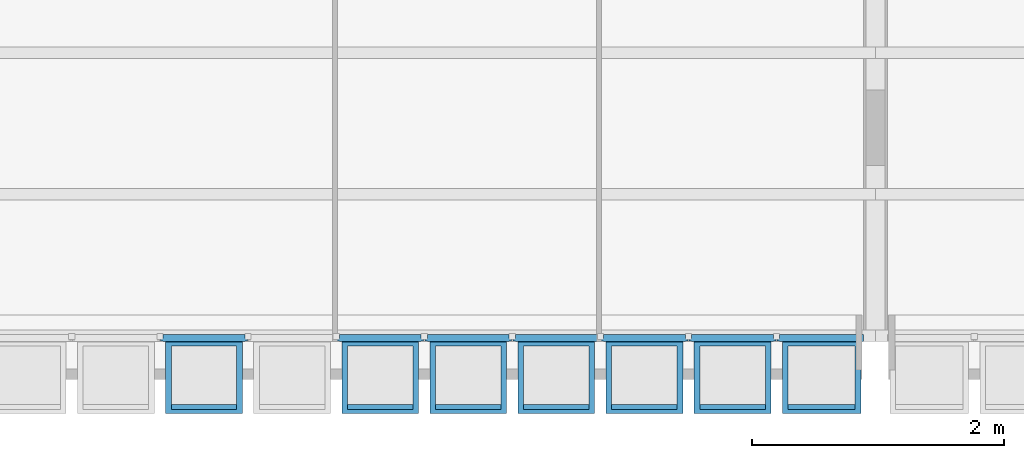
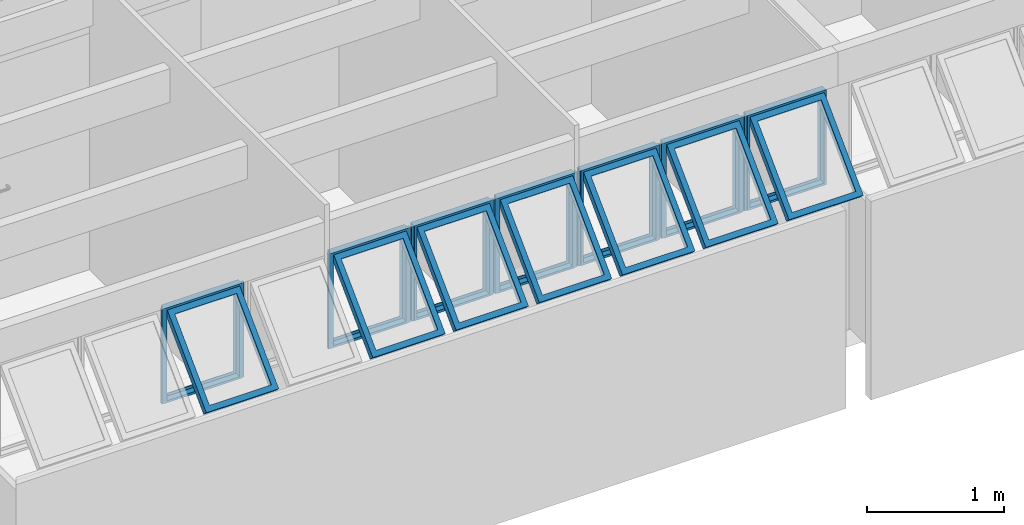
# One storey, part 26 of 37: 7 building element parts, 8 elements without a shape of their own.
"""IFC2X3 building model written with IfcOpenShell, lengths in millimetres."""

from ifc_helpers import new_model, entity, si_unit, converted_unit, derived_unit, money_unit, direction, frame, origin_with_axes, place, context, subcontext, project, spatial, faceted_brep, source, transform, mapped, material, type_object, element, aggregate, save


model = new_model("IFC2X3")

# Units and contexts
model_context = context("Model", 3, precision=0.01, world=origin_with_axes(), true_north=direction((0.0, 1.0)))
body_context = subcontext(model_context, "Body", "Model", "MODEL_VIEW")
ifc_project = project(units=[si_unit("LENGTHUNIT", "METRE", prefix="MILLI"), si_unit("AREAUNIT", "SQUARE_METRE"), si_unit("VOLUMEUNIT", "CUBIC_METRE"), converted_unit("PLANEANGLEUNIT", "DEGREE", entity("IfcPlaneAngleMeasure", 0.0174532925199), si_unit("PLANEANGLEUNIT", "RADIAN"), dimensions=[0, 0, 0, 0, 0, 0, 0]), money_unit("USD"), converted_unit("TIMEUNIT", "Year", entity("IfcTimeMeasure", 31556926.0), si_unit("TIMEUNIT", "SECOND"), dimensions=[0, 0, 1, 0, 0, 0, 0]), si_unit("MASSUNIT", "GRAM", prefix="KILO"), si_unit("THERMODYNAMICTEMPERATUREUNIT", "DEGREE_CELSIUS"), si_unit("LUMINOUSINTENSITYUNIT", "LUMEN"), si_unit("ENERGYUNIT", "JOULE", prefix="MEGA"), derived_unit("THERMALCONDUCTANCEUNIT", [(si_unit("POWERUNIT", "WATT"), 1), (si_unit("LENGTHUNIT", "METRE"), -1), (si_unit("THERMODYNAMICTEMPERATUREUNIT", "KELVIN"), -1)]), derived_unit("SPECIFICHEATCAPACITYUNIT", [(si_unit("ENERGYUNIT", "JOULE"), 1), (si_unit("MASSUNIT", "GRAM", prefix="KILO"), -1), (si_unit("THERMODYNAMICTEMPERATUREUNIT", "KELVIN"), -1)]), derived_unit("MASSDENSITYUNIT", [(si_unit("MASSUNIT", "GRAM", prefix="KILO"), 1), (si_unit("VOLUMEUNIT", "CUBIC_METRE"), -1)])], contexts=[model_context])

# Site, building, storey
site_placement = place(None, origin_with_axes())
site = spatial("IfcSite", under=ifc_project, at=site_placement, Name="Local", CompositionType="ELEMENT")
building_placement = place(site_placement, origin_with_axes())
building = spatial("IfcBuilding", under=site, at=building_placement, Name="Construção", CompositionType="ELEMENT")
storey_placement = place(building_placement, origin_with_axes())
storey = spatial("IfcBuildingStorey", under=building, at=storey_placement, Name="Primeiro Pavimento", CompositionType="ELEMENT", Elevation=0.0)

# Window, plates, building element parts
window_style = type_object("IfcWindowStyle", Name="Tipo de Parede Cortina", ConstructionType="NOTDEFINED", OperationType="NOTDEFINED", ParameterTakesPrecedence=False, Sizeable=False)
window_placement = place(storey_placement, frame((294.999984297, 315.020977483, 1355.02054151), z_axis=(0.0, 0.0, 1.0), x_axis=(1.0, 0.0, 0.0)))
window = element("IfcWindow", 1, at=window_placement, inside=storey, type_object=window_style, Name="APTO1-JANELA-001")
plate_type_1 = type_object("IfcPlateType", Name="Painel Principal 690 x 845 x 20", PredefinedType="CURTAIN_PANEL")
plate_1_placement = place(window_placement, frame((4555.0000157, 0.0, 422.499945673), z_axis=(0.0, 0.0, 1.0), x_axis=(-1.0, 0.0, 0.0)))
plate_1 = element("IfcPlate", 2, at=plate_1_placement, type_object=plate_type_1, Name="APTO1-Painel-Prin-029")
ifc_material = material(Name="Alumínio")
shared_shape_1 = source(origin_with_axes(), body_context, "Body", "Brep", [
    faceted_brep([(25.0000036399, 0.0, -40.0), (674.999997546, 0.0, -40.0), (674.999997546, 0.0, -35.0), (25.0000036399, 0.0, -35.0), (70.0000036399, 45.0, -40.0), (629.999997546, 45.0, -40.0), (629.999997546, 45.0, -35.0), (70.0000036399, 45.0, -35.0)], [[[0, 1, 2, 3]], [[0, 4, 5, 1]], [[1, 5, 6, 2]], [[3, 2, 6, 7]], [[4, 0, 3, 7]], [[5, 4, 7, 6]]]),
    faceted_brep([(674.999997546, 0.0, -40.0), (674.999997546, 844.999891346, -40.0), (674.999997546, 844.999891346, -35.0), (674.999997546, 0.0, -35.0), (629.999997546, 45.0, -40.0), (629.999997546, 799.999891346, -40.0), (629.999997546, 799.999891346, -35.0), (629.999997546, 45.0, -35.0)], [[[0, 1, 2, 3]], [[0, 4, 5, 1]], [[1, 5, 6, 2]], [[3, 2, 6, 7]], [[4, 0, 3, 7]], [[5, 4, 7, 6]]]),
    faceted_brep([(25.0000036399, 844.999891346, -40.0), (70.0000036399, 799.999891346, -40.0), (70.0000036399, 799.999891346, -35.0), (25.0000036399, 844.999891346, -35.0), (674.999997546, 844.999891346, -40.0), (629.999997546, 799.999891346, -40.0), (629.999997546, 799.999891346, -35.0), (674.999997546, 844.999891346, -35.0)], [[[0, 1, 2, 3]], [[0, 4, 5, 1]], [[1, 5, 6, 2]], [[3, 2, 6, 7]], [[4, 0, 3, 7]], [[5, 4, 7, 6]]]),
    faceted_brep([(25.0000036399, 0.0, -40.0), (70.0000036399, 45.0, -40.0), (70.0000036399, 45.0, -35.0), (25.0000036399, 0.0, -35.0), (25.0000036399, 844.999891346, -40.0), (70.0000036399, 799.999891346, -40.0), (70.0000036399, 799.999891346, -35.0), (25.0000036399, 844.999891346, -35.0)], [[[0, 1, 2, 3]], [[0, 4, 5, 1]], [[1, 5, 6, 2]], [[3, 2, 6, 7]], [[4, 0, 3, 7]], [[5, 4, 7, 6]]]),
    faceted_brep([(25.0000036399, 0.0, -35.0), (674.999997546, 0.0, -35.0), (674.999997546, 0.0, 15.0), (25.0000036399, 0.0, 15.0), (45.0000036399, 20.0, -35.0), (654.999997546, 20.0, -35.0), (654.999997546, 20.0, 15.0), (45.0000036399, 20.0, 15.0)], [[[0, 1, 2, 3]], [[0, 4, 5, 1]], [[1, 5, 6, 2]], [[3, 2, 6, 7]], [[4, 0, 3, 7]], [[5, 4, 7, 6]]]),
    faceted_brep([(674.999997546, 0.0, -35.0), (674.999997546, 844.999891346, -35.0), (674.999997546, 844.999891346, 15.0), (674.999997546, 0.0, 15.0), (654.999997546, 20.0, -35.0), (654.999997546, 824.999891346, -35.0), (654.999997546, 824.999891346, 15.0), (654.999997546, 20.0, 15.0)], [[[0, 1, 2, 3]], [[0, 4, 5, 1]], [[1, 5, 6, 2]], [[3, 2, 6, 7]], [[4, 0, 3, 7]], [[5, 4, 7, 6]]]),
    faceted_brep([(25.0000036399, 844.999891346, -35.0), (45.0000036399, 824.999891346, -35.0), (45.0000036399, 824.999891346, 15.0), (25.0000036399, 844.999891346, 15.0), (674.999997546, 844.999891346, -35.0), (654.999997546, 824.999891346, -35.0), (654.999997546, 824.999891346, 15.0), (674.999997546, 844.999891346, 15.0)], [[[0, 1, 2, 3]], [[0, 4, 5, 1]], [[1, 5, 6, 2]], [[3, 2, 6, 7]], [[4, 0, 3, 7]], [[5, 4, 7, 6]]]),
    faceted_brep([(25.0000036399, 0.0, -35.0), (45.0000036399, 20.0, -35.0), (45.0000036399, 20.0, 15.0), (25.0000036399, 0.0, 15.0), (25.0000036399, 844.999891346, -35.0), (45.0000036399, 824.999891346, -35.0), (45.0000036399, 824.999891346, 15.0), (25.0000036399, 844.999891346, 15.0)], [[[0, 1, 2, 3]], [[0, 4, 5, 1]], [[1, 5, 6, 2]], [[3, 2, 6, 7]], [[4, 0, 3, 7]], [[5, 4, 7, 6]]]),
    faceted_brep([(694.999995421, 0.0, -10.0), (694.999995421, 844.999891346, -10.0), (694.999995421, 844.999891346, 10.0), (694.999995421, 0.0, 10.0), (674.999997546, 0.0, -10.0), (674.999997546, 844.999891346, -10.0), (674.999997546, 844.999891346, 10.0), (674.999997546, 0.0, 10.0)], [[[0, 1, 2, 3]], [[0, 4, 5, 1]], [[1, 5, 6, 2]], [[3, 2, 6, 7]], [[4, 0, 3, 7]], [[5, 4, 7, 6]]]),
    faceted_brep([(5.00000576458, 844.999891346, -10.0), (5.00000576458, 0.0, -10.0), (5.00000576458, 0.0, 10.0), (5.00000576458, 844.999891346, 10.0), (25.0000036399, 844.999891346, -10.0), (25.0000036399, 0.0, -10.0), (25.0000036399, 0.0, 10.0), (25.0000036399, 844.999891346, 10.0)], [[[0, 1, 2, 3]], [[0, 4, 5, 1]], [[1, 5, 6, 2]], [[3, 2, 6, 7]], [[4, 0, 3, 7]], [[5, 4, 7, 6]]]),
    faceted_brep([(90.0000036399, 252.243475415, 517.045737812), (90.0000036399, 757.824747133, 11.4644660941), (90.0000036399, 796.715620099, 50.3553390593), (90.0000036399, 291.13434838, 555.936610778), (45.0000036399, 220.423670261, 548.865542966), (45.0000036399, 789.644552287, -20.3553390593), (45.0000036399, 828.535425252, 18.5355339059), (45.0000036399, 259.314543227, 587.756415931)], [[[0, 1, 2, 3]], [[0, 4, 5, 1]], [[1, 5, 6, 2]], [[3, 2, 6, 7]], [[4, 0, 3, 7]], [[5, 4, 7, 6]]]),
    faceted_brep([(654.999997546, 220.423670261, 548.865542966), (654.999997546, 789.644552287, -20.3553390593), (654.999997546, 828.535425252, 18.5355339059), (654.999997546, 259.314543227, 587.756415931), (609.999997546, 252.243475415, 517.045737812), (609.999997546, 757.824747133, 11.4644660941), (609.999997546, 796.715620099, 50.3553390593), (609.999997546, 291.13434838, 555.936610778)], [[[0, 1, 2, 3]], [[0, 4, 5, 1]], [[1, 5, 6, 2]], [[3, 2, 6, 7]], [[4, 0, 3, 7]], [[5, 4, 7, 6]]]),
    faceted_brep([(654.999997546, 220.423670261, 548.865542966), (609.999997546, 252.243475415, 517.045737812), (609.999997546, 291.13434838, 555.936610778), (654.999997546, 259.314543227, 587.756415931), (45.0000036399, 220.423670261, 548.865542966), (90.0000036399, 252.243475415, 517.045737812), (90.0000036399, 291.13434838, 555.936610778), (45.0000036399, 259.314543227, 587.756415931)], [[[0, 1, 2, 3]], [[0, 4, 5, 1]], [[1, 5, 6, 2]], [[3, 2, 6, 7]], [[4, 0, 3, 7]], [[5, 4, 7, 6]]]),
    faceted_brep([(45.0000036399, 789.644552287, -20.3553390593), (90.0000036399, 757.824747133, 11.4644660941), (90.0000036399, 796.715620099, 50.3553390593), (45.0000036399, 828.535425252, 18.5355339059), (654.999997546, 789.644552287, -20.3553390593), (609.999997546, 757.824747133, 11.4644660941), (609.999997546, 796.715620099, 50.3553390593), (654.999997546, 828.535425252, 18.5355339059)], [[[0, 1, 2, 3]], [[0, 4, 5, 1]], [[1, 5, 6, 2]], [[3, 2, 6, 7]], [[4, 0, 3, 7]], [[5, 4, 7, 6]]]),
])
building_element_part_1_placement = place(plate_1_placement, origin_with_axes())
building_element_part_1 = element("IfcBuildingElementPart", 3, at=building_element_part_1_placement, material=ifc_material, Name="Alumínio", context=body_context, shape_type="MappedRepresentation", body=[
    mapped(shared_shape_1, transform((350.0, 0.0, -422.499945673), x_axis=(-1.0, 0.0, 0.0), y_axis=(0.0, 0.0, 1.0), z_axis=(0.0, 1.0, 0.0))),
])
aggregate(plate_1, [building_element_part_1])
plate_2_placement = place(window_placement, frame((5255.0000157, 0.0, 422.499945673), z_axis=(0.0, 0.0, 1.0), x_axis=(-1.0, 0.0, 0.0)))
plate_2 = element("IfcPlate", 4, at=plate_2_placement, type_object=plate_type_1, Name="APTO1-Painel-Prin-020")
building_element_part_2_placement = place(plate_2_placement, origin_with_axes())
building_element_part_2 = element("IfcBuildingElementPart", 5, at=building_element_part_2_placement, material=ifc_material, Name="Alumínio", context=body_context, shape_type="MappedRepresentation", body=[
    mapped(shared_shape_1, transform((350.0, 0.0, -422.499945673), x_axis=(-1.0, 0.0, 0.0), y_axis=(0.0, 0.0, 1.0), z_axis=(0.0, 1.0, 0.0))),
])
aggregate(plate_2, [building_element_part_2])
plate_3_placement = place(window_placement, frame((5955.0000157, 0.0, 422.499945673), z_axis=(0.0, 0.0, 1.0), x_axis=(-1.0, 0.0, 0.0)))
plate_3 = element("IfcPlate", 6, at=plate_3_placement, type_object=plate_type_1, Name="APTO1-Painel-Prin-030")
building_element_part_3_placement = place(plate_3_placement, origin_with_axes())
building_element_part_3 = element("IfcBuildingElementPart", 7, at=building_element_part_3_placement, material=ifc_material, Name="Alumínio", context=body_context, shape_type="MappedRepresentation", body=[
    mapped(shared_shape_1, transform((350.0, 0.0, -422.499945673), x_axis=(-1.0, 0.0, 0.0), y_axis=(0.0, 0.0, 1.0), z_axis=(0.0, 1.0, 0.0))),
])
aggregate(plate_3, [building_element_part_3])
plate_type_2 = type_object("IfcPlateType", Name="Painel Principal 685 x 845 x 20", PredefinedType="CURTAIN_PANEL")
plate_4_placement = place(window_placement, frame((6650.00005288, 0.0, 422.499953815), z_axis=(0.0, 0.0, 1.0), x_axis=(-1.0, 0.0, 0.0)))
plate_4 = element("IfcPlate", 8, at=plate_4_placement, type_object=plate_type_2, Name="APTO1-Painel-Prin-031")
shared_shape_2 = source(origin_with_axes(), body_context, "Body", "Brep", [
    faceted_brep([(25.0000046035, 0.0, -40.0), (690.000079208, 0.0, -40.0), (690.000079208, 0.0, -35.0), (25.0000046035, 0.0, -35.0), (70.0000046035, 45.0, -40.0), (645.000079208, 45.0, -40.0), (645.000079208, 45.0, -35.0), (70.0000046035, 45.0, -35.0)], [[[0, 1, 2, 3]], [[0, 4, 5, 1]], [[1, 5, 6, 2]], [[3, 2, 6, 7]], [[4, 0, 3, 7]], [[5, 4, 7, 6]]]),
    faceted_brep([(690.000079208, 0.0, -40.0), (690.000079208, 844.999923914, -40.0), (690.000079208, 844.999923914, -35.0), (690.000079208, 0.0, -35.0), (645.000079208, 45.0, -40.0), (645.000079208, 799.999923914, -40.0), (645.000079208, 799.999923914, -35.0), (645.000079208, 45.0, -35.0)], [[[0, 1, 2, 3]], [[0, 4, 5, 1]], [[1, 5, 6, 2]], [[3, 2, 6, 7]], [[4, 0, 3, 7]], [[5, 4, 7, 6]]]),
    faceted_brep([(25.0000046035, 844.999923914, -40.0), (70.0000046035, 799.999923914, -40.0), (70.0000046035, 799.999923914, -35.0), (25.0000046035, 844.999923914, -35.0), (690.000079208, 844.999923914, -40.0), (645.000079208, 799.999923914, -40.0), (645.000079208, 799.999923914, -35.0), (690.000079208, 844.999923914, -35.0)], [[[0, 1, 2, 3]], [[0, 4, 5, 1]], [[1, 5, 6, 2]], [[3, 2, 6, 7]], [[4, 0, 3, 7]], [[5, 4, 7, 6]]]),
    faceted_brep([(25.0000046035, 0.0, -40.0), (70.0000046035, 45.0, -40.0), (70.0000046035, 45.0, -35.0), (25.0000046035, 0.0, -35.0), (25.0000046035, 844.999923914, -40.0), (70.0000046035, 799.999923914, -40.0), (70.0000046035, 799.999923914, -35.0), (25.0000046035, 844.999923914, -35.0)], [[[0, 1, 2, 3]], [[0, 4, 5, 1]], [[1, 5, 6, 2]], [[3, 2, 6, 7]], [[4, 0, 3, 7]], [[5, 4, 7, 6]]]),
    faceted_brep([(25.0000046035, 0.0, -35.0), (690.000079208, 0.0, -35.0), (690.000079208, 0.0, 15.0), (25.0000046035, 0.0, 15.0), (45.0000046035, 20.0, -35.0), (670.000079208, 20.0, -35.0), (670.000079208, 20.0, 15.0), (45.0000046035, 20.0, 15.0)], [[[0, 1, 2, 3]], [[0, 4, 5, 1]], [[1, 5, 6, 2]], [[3, 2, 6, 7]], [[4, 0, 3, 7]], [[5, 4, 7, 6]]]),
    faceted_brep([(690.000079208, 0.0, -35.0), (690.000079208, 844.999923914, -35.0), (690.000079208, 844.999923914, 15.0), (690.000079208, 0.0, 15.0), (670.000079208, 20.0, -35.0), (670.000079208, 824.999923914, -35.0), (670.000079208, 824.999923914, 15.0), (670.000079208, 20.0, 15.0)], [[[0, 1, 2, 3]], [[0, 4, 5, 1]], [[1, 5, 6, 2]], [[3, 2, 6, 7]], [[4, 0, 3, 7]], [[5, 4, 7, 6]]]),
    faceted_brep([(25.0000046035, 844.999923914, -35.0), (45.0000046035, 824.999923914, -35.0), (45.0000046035, 824.999923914, 15.0), (25.0000046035, 844.999923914, 15.0), (690.000079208, 844.999923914, -35.0), (670.000079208, 824.999923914, -35.0), (670.000079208, 824.999923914, 15.0), (690.000079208, 844.999923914, 15.0)], [[[0, 1, 2, 3]], [[0, 4, 5, 1]], [[1, 5, 6, 2]], [[3, 2, 6, 7]], [[4, 0, 3, 7]], [[5, 4, 7, 6]]]),
    faceted_brep([(25.0000046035, 0.0, -35.0), (45.0000046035, 20.0, -35.0), (45.0000046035, 20.0, 15.0), (25.0000046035, 0.0, 15.0), (25.0000046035, 844.999923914, -35.0), (45.0000046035, 824.999923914, -35.0), (45.0000046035, 824.999923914, 15.0), (25.0000046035, 844.999923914, 15.0)], [[[0, 1, 2, 3]], [[0, 4, 5, 1]], [[1, 5, 6, 2]], [[3, 2, 6, 7]], [[4, 0, 3, 7]], [[5, 4, 7, 6]]]),
    faceted_brep([(5.00000595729, 844.999923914, -10.0), (5.00000595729, 0.0, -10.0), (5.00000595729, 0.0, 10.0), (5.00000595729, 844.999923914, 10.0), (25.0000046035, 844.999923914, -10.0), (25.0000046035, 0.0, -10.0), (25.0000046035, 0.0, 10.0), (25.0000046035, 844.999923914, 10.0)], [[[0, 1, 2, 3]], [[0, 4, 5, 1]], [[1, 5, 6, 2]], [[3, 2, 6, 7]], [[4, 0, 3, 7]], [[5, 4, 7, 6]]]),
    faceted_brep([(90.0000046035, 252.243484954, 517.045760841), (90.0000046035, 757.824779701, 11.4644660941), (90.0000046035, 796.715652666, 50.3553390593), (90.0000046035, 291.134357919, 555.936633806), (45.0000046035, 220.4236798, 548.865565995), (45.0000046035, 789.644584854, -20.3553390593), (45.0000046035, 828.535457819, 18.5355339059), (45.0000046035, 259.314552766, 587.75643896)], [[[0, 1, 2, 3]], [[0, 4, 5, 1]], [[1, 5, 6, 2]], [[3, 2, 6, 7]], [[4, 0, 3, 7]], [[5, 4, 7, 6]]]),
    faceted_brep([(670.000079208, 220.4236798, 548.865565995), (670.000079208, 789.644584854, -20.3553390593), (670.000079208, 828.535457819, 18.5355339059), (670.000079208, 259.314552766, 587.75643896), (625.000079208, 252.243484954, 517.045760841), (625.000079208, 757.824779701, 11.4644660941), (625.000079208, 796.715652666, 50.3553390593), (625.000079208, 291.134357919, 555.936633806)], [[[0, 1, 2, 3]], [[0, 4, 5, 1]], [[1, 5, 6, 2]], [[3, 2, 6, 7]], [[4, 0, 3, 7]], [[5, 4, 7, 6]]]),
    faceted_brep([(670.000079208, 220.4236798, 548.865565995), (625.000079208, 252.243484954, 517.045760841), (625.000079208, 291.134357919, 555.936633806), (670.000079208, 259.314552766, 587.75643896), (45.0000046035, 220.4236798, 548.865565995), (90.0000046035, 252.243484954, 517.045760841), (90.0000046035, 291.134357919, 555.936633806), (45.0000046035, 259.314552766, 587.75643896)], [[[0, 1, 2, 3]], [[0, 4, 5, 1]], [[1, 5, 6, 2]], [[3, 2, 6, 7]], [[4, 0, 3, 7]], [[5, 4, 7, 6]]]),
    faceted_brep([(45.0000046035, 789.644584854, -20.3553390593), (90.0000046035, 757.824779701, 11.4644660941), (90.0000046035, 796.715652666, 50.3553390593), (45.0000046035, 828.535457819, 18.5355339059), (670.000079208, 789.644584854, -20.3553390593), (625.000079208, 757.824779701, 11.4644660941), (625.000079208, 796.715652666, 50.3553390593), (670.000079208, 828.535457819, 18.5355339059)], [[[0, 1, 2, 3]], [[0, 4, 5, 1]], [[1, 5, 6, 2]], [[3, 2, 6, 7]], [[4, 0, 3, 7]], [[5, 4, 7, 6]]]),
])
building_element_part_4_placement = place(plate_4_placement, origin_with_axes())
building_element_part_4 = element("IfcBuildingElementPart", 9, at=building_element_part_4_placement, material=ifc_material, Name="Alumínio", context=body_context, shape_type="MappedRepresentation", body=[
    mapped(shared_shape_2, transform((345.000037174, 0.0, -422.499953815), x_axis=(-1.0, 0.0, 0.0), y_axis=(0.0, 0.0, 1.0), z_axis=(0.0, 1.0, 0.0))),
])
aggregate(plate_4, [building_element_part_4])
plate_5_placement = place(window_placement, frame((3855.0000157, 0.0, 422.499945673), z_axis=(0.0, 0.0, 1.0), x_axis=(-1.0, 0.0, 0.0)))
plate_5 = element("IfcPlate", 10, at=plate_5_placement, type_object=plate_type_1, Name="APTO1-Painel-Prin-025")
shared_shape_3 = source(origin_with_axes(), body_context, "Body", "Brep", [
    faceted_brep([(25.0000036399, 0.0, -40.0), (674.999997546, 0.0, -40.0), (674.999997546, 0.0, -35.0), (25.0000036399, 0.0, -35.0), (70.0000036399, 45.0, -40.0), (629.999997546, 45.0, -40.0), (629.999997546, 45.0, -35.0), (70.0000036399, 45.0, -35.0)], [[[0, 1, 2, 3]], [[0, 4, 5, 1]], [[1, 5, 6, 2]], [[3, 2, 6, 7]], [[4, 0, 3, 7]], [[5, 4, 7, 6]]]),
    faceted_brep([(674.999997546, 0.0, -40.0), (674.999997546, 844.999891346, -40.0), (674.999997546, 844.999891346, -35.0), (674.999997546, 0.0, -35.0), (629.999997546, 45.0, -40.0), (629.999997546, 799.999891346, -40.0), (629.999997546, 799.999891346, -35.0), (629.999997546, 45.0, -35.0)], [[[0, 1, 2, 3]], [[0, 4, 5, 1]], [[1, 5, 6, 2]], [[3, 2, 6, 7]], [[4, 0, 3, 7]], [[5, 4, 7, 6]]]),
    faceted_brep([(25.0000036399, 844.999891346, -40.0), (70.0000036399, 799.999891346, -40.0), (70.0000036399, 799.999891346, -35.0), (25.0000036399, 844.999891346, -35.0), (674.999997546, 844.999891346, -40.0), (629.999997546, 799.999891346, -40.0), (629.999997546, 799.999891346, -35.0), (674.999997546, 844.999891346, -35.0)], [[[0, 1, 2, 3]], [[0, 4, 5, 1]], [[1, 5, 6, 2]], [[3, 2, 6, 7]], [[4, 0, 3, 7]], [[5, 4, 7, 6]]]),
    faceted_brep([(25.0000036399, 0.0, -40.0), (70.0000036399, 45.0, -40.0), (70.0000036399, 45.0, -35.0), (25.0000036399, 0.0, -35.0), (25.0000036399, 844.999891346, -40.0), (70.0000036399, 799.999891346, -40.0), (70.0000036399, 799.999891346, -35.0), (25.0000036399, 844.999891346, -35.0)], [[[0, 1, 2, 3]], [[0, 4, 5, 1]], [[1, 5, 6, 2]], [[3, 2, 6, 7]], [[4, 0, 3, 7]], [[5, 4, 7, 6]]]),
    faceted_brep([(25.0000036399, 0.0, -35.0), (674.999997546, 0.0, -35.0), (674.999997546, 0.0, 15.0), (25.0000036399, 0.0, 15.0), (45.0000036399, 20.0, -35.0), (654.999997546, 20.0, -35.0), (654.999997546, 20.0, 15.0), (45.0000036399, 20.0, 15.0)], [[[0, 1, 2, 3]], [[0, 4, 5, 1]], [[1, 5, 6, 2]], [[3, 2, 6, 7]], [[4, 0, 3, 7]], [[5, 4, 7, 6]]]),
    faceted_brep([(674.999997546, 0.0, -35.0), (674.999997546, 844.999891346, -35.0), (674.999997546, 844.999891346, 15.0), (674.999997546, 0.0, 15.0), (654.999997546, 20.0, -35.0), (654.999997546, 824.999891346, -35.0), (654.999997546, 824.999891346, 15.0), (654.999997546, 20.0, 15.0)], [[[0, 1, 2, 3]], [[0, 4, 5, 1]], [[1, 5, 6, 2]], [[3, 2, 6, 7]], [[4, 0, 3, 7]], [[5, 4, 7, 6]]]),
    faceted_brep([(25.0000036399, 844.999891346, -35.0), (45.0000036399, 824.999891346, -35.0), (45.0000036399, 824.999891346, 15.0), (25.0000036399, 844.999891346, 15.0), (674.999997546, 844.999891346, -35.0), (654.999997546, 824.999891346, -35.0), (654.999997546, 824.999891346, 15.0), (674.999997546, 844.999891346, 15.0)], [[[0, 1, 2, 3]], [[0, 4, 5, 1]], [[1, 5, 6, 2]], [[3, 2, 6, 7]], [[4, 0, 3, 7]], [[5, 4, 7, 6]]]),
    faceted_brep([(25.0000036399, 0.0, -35.0), (45.0000036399, 20.0, -35.0), (45.0000036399, 20.0, 15.0), (25.0000036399, 0.0, 15.0), (25.0000036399, 844.999891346, -35.0), (45.0000036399, 824.999891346, -35.0), (45.0000036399, 824.999891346, 15.0), (25.0000036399, 844.999891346, 15.0)], [[[0, 1, 2, 3]], [[0, 4, 5, 1]], [[1, 5, 6, 2]], [[3, 2, 6, 7]], [[4, 0, 3, 7]], [[5, 4, 7, 6]]]),
    faceted_brep([(694.999995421, 0.0, -10.0), (694.999995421, 844.999891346, -10.0), (694.999995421, 844.999891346, 10.0), (694.999995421, 0.0, 10.0), (674.999997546, 0.0, -10.0), (674.999997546, 844.999891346, -10.0), (674.999997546, 844.999891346, 10.0), (674.999997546, 0.0, 10.0)], [[[0, 1, 2, 3]], [[0, 4, 5, 1]], [[1, 5, 6, 2]], [[3, 2, 6, 7]], [[4, 0, 3, 7]], [[5, 4, 7, 6]]]),
    faceted_brep([(5.00000576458, 844.999891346, -10.0), (5.00000576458, 0.0, -10.0), (5.00000576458, 0.0, 10.0), (5.00000576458, 844.999891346, 10.0), (25.0000036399, 844.999891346, -10.0), (25.0000036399, 0.0, -10.0), (25.0000036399, 0.0, 10.0), (25.0000036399, 844.999891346, 10.0)], [[[0, 1, 2, 3]], [[0, 4, 5, 1]], [[1, 5, 6, 2]], [[3, 2, 6, 7]], [[4, 0, 3, 7]], [[5, 4, 7, 6]]]),
    faceted_brep([(90.0000036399, 252.243475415, 517.045737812), (90.0000036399, 757.824747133, 11.4644660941), (90.0000036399, 796.715620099, 50.3553390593), (90.0000036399, 291.13434838, 555.936610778), (45.0000036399, 220.423670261, 548.865542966), (45.0000036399, 789.644552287, -20.3553390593), (45.0000036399, 828.535425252, 18.5355339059), (45.0000036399, 259.314543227, 587.756415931)], [[[0, 1, 2, 3]], [[0, 4, 5, 1]], [[1, 5, 6, 2]], [[3, 2, 6, 7]], [[4, 0, 3, 7]], [[5, 4, 7, 6]]]),
    faceted_brep([(654.999997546, 220.423670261, 548.865542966), (654.999997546, 789.644552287, -20.3553390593), (654.999997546, 828.535425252, 18.5355339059), (654.999997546, 259.314543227, 587.756415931), (609.999997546, 252.243475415, 517.045737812), (609.999997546, 757.824747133, 11.4644660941), (609.999997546, 796.715620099, 50.3553390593), (609.999997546, 291.13434838, 555.936610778)], [[[0, 1, 2, 3]], [[0, 4, 5, 1]], [[1, 5, 6, 2]], [[3, 2, 6, 7]], [[4, 0, 3, 7]], [[5, 4, 7, 6]]]),
    faceted_brep([(654.999997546, 220.423670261, 548.865542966), (609.999997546, 252.243475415, 517.045737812), (609.999997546, 291.13434838, 555.936610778), (654.999997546, 259.314543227, 587.756415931), (45.0000036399, 220.423670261, 548.865542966), (90.0000036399, 252.243475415, 517.045737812), (90.0000036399, 291.13434838, 555.936610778), (45.0000036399, 259.314543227, 587.756415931)], [[[0, 1, 2, 3]], [[0, 4, 5, 1]], [[1, 5, 6, 2]], [[3, 2, 6, 7]], [[4, 0, 3, 7]], [[5, 4, 7, 6]]]),
    faceted_brep([(45.0000036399, 789.644552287, -20.3553390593), (90.0000036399, 757.824747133, 11.4644660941), (90.0000036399, 796.715620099, 50.3553390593), (45.0000036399, 828.535425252, 18.5355339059), (654.999997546, 789.644552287, -20.3553390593), (609.999997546, 757.824747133, 11.4644660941), (609.999997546, 796.715620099, 50.3553390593), (654.999997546, 828.535425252, 18.5355339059)], [[[0, 1, 2, 3]], [[0, 4, 5, 1]], [[1, 5, 6, 2]], [[3, 2, 6, 7]], [[4, 0, 3, 7]], [[5, 4, 7, 6]]]),
])
building_element_part_5_placement = place(plate_5_placement, origin_with_axes())
building_element_part_5 = element("IfcBuildingElementPart", 11, at=building_element_part_5_placement, material=ifc_material, Name="Alumínio", context=body_context, shape_type="MappedRepresentation", body=[
    mapped(shared_shape_3, transform((350.0, 0.0, -422.499945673), x_axis=(-1.0, 0.0, 0.0), y_axis=(0.0, 0.0, 1.0), z_axis=(0.0, 1.0, 0.0))),
])
aggregate(plate_5, [building_element_part_5])
plate_6_placement = place(window_placement, frame((1755.0000157, 0.0, 422.499945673), z_axis=(0.0, 0.0, 1.0), x_axis=(-1.0, 0.0, 0.0)))
plate_6 = element("IfcPlate", 12, at=plate_6_placement, type_object=plate_type_1, Name="APTO1-Painel-Prin-013")
shared_shape_4 = source(origin_with_axes(), body_context, "Body", "Brep", [
    faceted_brep([(25.0000036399, 0.0, -40.0), (674.999997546, 0.0, -40.0), (674.999997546, 0.0, -35.0), (25.0000036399, 0.0, -35.0), (70.0000036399, 45.0, -40.0), (629.999997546, 45.0, -40.0), (629.999997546, 45.0, -35.0), (70.0000036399, 45.0, -35.0)], [[[0, 1, 2, 3]], [[0, 4, 5, 1]], [[1, 5, 6, 2]], [[3, 2, 6, 7]], [[4, 0, 3, 7]], [[5, 4, 7, 6]]]),
    faceted_brep([(674.999997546, 0.0, -40.0), (674.999997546, 844.999891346, -40.0), (674.999997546, 844.999891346, -35.0), (674.999997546, 0.0, -35.0), (629.999997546, 45.0, -40.0), (629.999997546, 799.999891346, -40.0), (629.999997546, 799.999891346, -35.0), (629.999997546, 45.0, -35.0)], [[[0, 1, 2, 3]], [[0, 4, 5, 1]], [[1, 5, 6, 2]], [[3, 2, 6, 7]], [[4, 0, 3, 7]], [[5, 4, 7, 6]]]),
    faceted_brep([(25.0000036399, 844.999891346, -40.0), (70.0000036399, 799.999891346, -40.0), (70.0000036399, 799.999891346, -35.0), (25.0000036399, 844.999891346, -35.0), (674.999997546, 844.999891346, -40.0), (629.999997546, 799.999891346, -40.0), (629.999997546, 799.999891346, -35.0), (674.999997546, 844.999891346, -35.0)], [[[0, 1, 2, 3]], [[0, 4, 5, 1]], [[1, 5, 6, 2]], [[3, 2, 6, 7]], [[4, 0, 3, 7]], [[5, 4, 7, 6]]]),
    faceted_brep([(25.0000036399, 0.0, -40.0), (70.0000036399, 45.0, -40.0), (70.0000036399, 45.0, -35.0), (25.0000036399, 0.0, -35.0), (25.0000036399, 844.999891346, -40.0), (70.0000036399, 799.999891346, -40.0), (70.0000036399, 799.999891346, -35.0), (25.0000036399, 844.999891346, -35.0)], [[[0, 1, 2, 3]], [[0, 4, 5, 1]], [[1, 5, 6, 2]], [[3, 2, 6, 7]], [[4, 0, 3, 7]], [[5, 4, 7, 6]]]),
    faceted_brep([(25.0000036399, 0.0, -35.0), (674.999997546, 0.0, -35.0), (674.999997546, 0.0, 15.0), (25.0000036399, 0.0, 15.0), (45.0000036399, 20.0, -35.0), (654.999997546, 20.0, -35.0), (654.999997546, 20.0, 15.0), (45.0000036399, 20.0, 15.0)], [[[0, 1, 2, 3]], [[0, 4, 5, 1]], [[1, 5, 6, 2]], [[3, 2, 6, 7]], [[4, 0, 3, 7]], [[5, 4, 7, 6]]]),
    faceted_brep([(674.999997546, 0.0, -35.0), (674.999997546, 844.999891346, -35.0), (674.999997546, 844.999891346, 15.0), (674.999997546, 0.0, 15.0), (654.999997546, 20.0, -35.0), (654.999997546, 824.999891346, -35.0), (654.999997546, 824.999891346, 15.0), (654.999997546, 20.0, 15.0)], [[[0, 1, 2, 3]], [[0, 4, 5, 1]], [[1, 5, 6, 2]], [[3, 2, 6, 7]], [[4, 0, 3, 7]], [[5, 4, 7, 6]]]),
    faceted_brep([(25.0000036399, 844.999891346, -35.0), (45.0000036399, 824.999891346, -35.0), (45.0000036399, 824.999891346, 15.0), (25.0000036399, 844.999891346, 15.0), (674.999997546, 844.999891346, -35.0), (654.999997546, 824.999891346, -35.0), (654.999997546, 824.999891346, 15.0), (674.999997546, 844.999891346, 15.0)], [[[0, 1, 2, 3]], [[0, 4, 5, 1]], [[1, 5, 6, 2]], [[3, 2, 6, 7]], [[4, 0, 3, 7]], [[5, 4, 7, 6]]]),
    faceted_brep([(25.0000036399, 0.0, -35.0), (45.0000036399, 20.0, -35.0), (45.0000036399, 20.0, 15.0), (25.0000036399, 0.0, 15.0), (25.0000036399, 844.999891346, -35.0), (45.0000036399, 824.999891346, -35.0), (45.0000036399, 824.999891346, 15.0), (25.0000036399, 844.999891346, 15.0)], [[[0, 1, 2, 3]], [[0, 4, 5, 1]], [[1, 5, 6, 2]], [[3, 2, 6, 7]], [[4, 0, 3, 7]], [[5, 4, 7, 6]]]),
    faceted_brep([(694.999995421, 0.0, -10.0), (694.999995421, 844.999891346, -10.0), (694.999995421, 844.999891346, 10.0), (694.999995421, 0.0, 10.0), (674.999997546, 0.0, -10.0), (674.999997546, 844.999891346, -10.0), (674.999997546, 844.999891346, 10.0), (674.999997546, 0.0, 10.0)], [[[0, 1, 2, 3]], [[0, 4, 5, 1]], [[1, 5, 6, 2]], [[3, 2, 6, 7]], [[4, 0, 3, 7]], [[5, 4, 7, 6]]]),
    faceted_brep([(5.00000576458, 844.999891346, -10.0), (5.00000576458, 0.0, -10.0), (5.00000576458, 0.0, 10.0), (5.00000576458, 844.999891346, 10.0), (25.0000036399, 844.999891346, -10.0), (25.0000036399, 0.0, -10.0), (25.0000036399, 0.0, 10.0), (25.0000036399, 844.999891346, 10.0)], [[[0, 1, 2, 3]], [[0, 4, 5, 1]], [[1, 5, 6, 2]], [[3, 2, 6, 7]], [[4, 0, 3, 7]], [[5, 4, 7, 6]]]),
    faceted_brep([(90.0000036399, 252.243475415, 517.045737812), (90.0000036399, 757.824747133, 11.4644660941), (90.0000036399, 796.715620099, 50.3553390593), (90.0000036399, 291.13434838, 555.936610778), (45.0000036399, 220.423670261, 548.865542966), (45.0000036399, 789.644552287, -20.3553390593), (45.0000036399, 828.535425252, 18.5355339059), (45.0000036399, 259.314543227, 587.756415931)], [[[0, 1, 2, 3]], [[0, 4, 5, 1]], [[1, 5, 6, 2]], [[3, 2, 6, 7]], [[4, 0, 3, 7]], [[5, 4, 7, 6]]]),
    faceted_brep([(654.999997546, 220.423670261, 548.865542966), (654.999997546, 789.644552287, -20.3553390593), (654.999997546, 828.535425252, 18.5355339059), (654.999997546, 259.314543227, 587.756415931), (609.999997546, 252.243475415, 517.045737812), (609.999997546, 757.824747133, 11.4644660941), (609.999997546, 796.715620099, 50.3553390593), (609.999997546, 291.13434838, 555.936610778)], [[[0, 1, 2, 3]], [[0, 4, 5, 1]], [[1, 5, 6, 2]], [[3, 2, 6, 7]], [[4, 0, 3, 7]], [[5, 4, 7, 6]]]),
    faceted_brep([(654.999997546, 220.423670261, 548.865542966), (609.999997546, 252.243475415, 517.045737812), (609.999997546, 291.13434838, 555.936610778), (654.999997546, 259.314543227, 587.756415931), (45.0000036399, 220.423670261, 548.865542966), (90.0000036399, 252.243475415, 517.045737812), (90.0000036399, 291.13434838, 555.936610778), (45.0000036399, 259.314543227, 587.756415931)], [[[0, 1, 2, 3]], [[0, 4, 5, 1]], [[1, 5, 6, 2]], [[3, 2, 6, 7]], [[4, 0, 3, 7]], [[5, 4, 7, 6]]]),
    faceted_brep([(45.0000036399, 789.644552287, -20.3553390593), (90.0000036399, 757.824747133, 11.4644660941), (90.0000036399, 796.715620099, 50.3553390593), (45.0000036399, 828.535425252, 18.5355339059), (654.999997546, 789.644552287, -20.3553390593), (609.999997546, 757.824747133, 11.4644660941), (609.999997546, 796.715620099, 50.3553390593), (654.999997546, 828.535425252, 18.5355339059)], [[[0, 1, 2, 3]], [[0, 4, 5, 1]], [[1, 5, 6, 2]], [[3, 2, 6, 7]], [[4, 0, 3, 7]], [[5, 4, 7, 6]]]),
])
building_element_part_6_placement = place(plate_6_placement, origin_with_axes())
building_element_part_6 = element("IfcBuildingElementPart", 13, at=building_element_part_6_placement, material=ifc_material, Name="Alumínio", context=body_context, shape_type="MappedRepresentation", body=[
    mapped(shared_shape_4, transform((350.0, 0.0, -422.499945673), x_axis=(-1.0, 0.0, 0.0), y_axis=(0.0, 0.0, 1.0), z_axis=(0.0, 1.0, 0.0))),
])
aggregate(plate_6, [building_element_part_6])
plate_7_placement = place(window_placement, frame((3155.0000157, 0.0, 422.499945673), z_axis=(0.0, 0.0, 1.0), x_axis=(-1.0, 0.0, 0.0)))
plate_7 = element("IfcPlate", 14, at=plate_7_placement, type_object=plate_type_1, Name="APTO1-Painel-Prin-013")
aggregate(window, [plate_1, plate_6, plate_2, plate_5, plate_7, plate_4, plate_3])
building_element_part_7_placement = place(plate_7_placement, origin_with_axes())
building_element_part_7 = element("IfcBuildingElementPart", 15, at=building_element_part_7_placement, material=ifc_material, Name="Alumínio", context=body_context, shape_type="MappedRepresentation", body=[
    mapped(shared_shape_4, transform((350.0, 0.0, -422.499945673), x_axis=(-1.0, 0.0, 0.0), y_axis=(0.0, 0.0, 1.0), z_axis=(0.0, 1.0, 0.0))),
])
aggregate(plate_7, [building_element_part_7])

save(model, "model.ifc")
